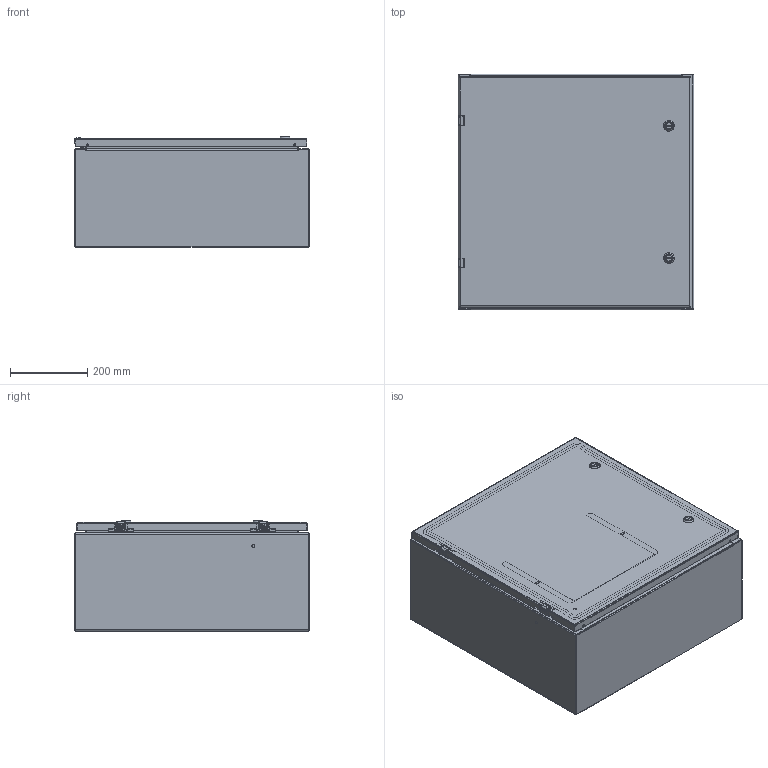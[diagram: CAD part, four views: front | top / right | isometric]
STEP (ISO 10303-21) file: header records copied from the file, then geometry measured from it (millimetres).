
FILE_DESCRIPTION((''),'2;1');
FILE_NAME('MODEL-305_ASM','2022-12-19T14:10:38',('Tony.Gonzales'),('SAGINAW CONTROL & ENGINEERING'),'CREO PARAMETRIC BY PTC INC, 2021284','CREO PARAMETRIC BY PTC INC, 2021284','');
FILE_SCHEMA(('AUTOMOTIVE_DESIGN { 1 0 10303 214 1 1 1 1 }'));
Length unit declared in the file: inch
Products named in the file (28): MODEL-305-BDY; MODEL-305-TP; MODEL-305-BTM; MODEL-305-DR; 100837; 100882; 111267; 100794_SHAFT; 100794_INSERT; 100794_CAM; 100794_NUT; 100794_SCREW; 100794_ASM; MODEL-305-DOOR-GASKET; 126391; 126391_ASM; 126393; 102483; 101226; 101376; 102140; MODEL-305-DOOR-ASSY_ASM; 101653; 122191; SUBPANEL; 100904; SUBPANEL-SUBASSEMBLY_ASM; MODEL-305_ASM
Assembly tree (48 placements, depth 4):
  MODEL-305_ASM
    MODEL-305-BDY
    MODEL-305-TP
    MODEL-305-BTM
    MODEL-305-DOOR-ASSY_ASM
      MODEL-305-DR
      100837  x3
      100882  x2
      111267
      100794_ASM  x2
        100794_SHAFT
        100794_INSERT
        100794_CAM
        100794_NUT
        100794_SCREW
      MODEL-305-DOOR-GASKET
      126391_ASM  x2
        126391
      126393  x2
      102483  x6
      101226  x2
      101376  x2
      102140  x2
    100837
    101653  x4
    122191
    SUBPANEL-SUBASSEMBLY_ASM
      SUBPANEL
      100904  x4
Bounding box: 609.6 x 609.6 x 285.13 mm (x, y, z)
Volume: 4319062.5 mm3; surface area: 3971104.3 mm2
Topology: 49 solids, 49 shells, 3061 faces, 7782 edges, 4888 vertices
Faces by surface type: plane 1358, cylinder 853, bspline 476, torus 214, cone 104, sphere 56
Entity records: 86174 total; most frequent: CARTESIAN_POINT 25365, ORIENTED_EDGE 8826, DIRECTION 8230, PRESENTATION_STYLE_ASSIGNMENT 4610, EDGE_CURVE 4413, STYLED_ITEM 4335, CURVE_STYLE 4251, AXIS2_PLACEMENT_3D 2984
